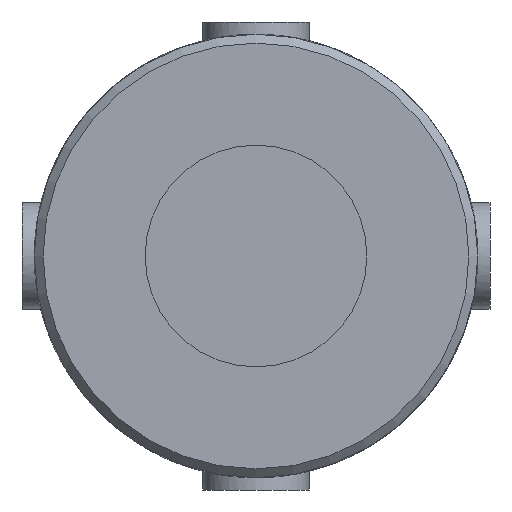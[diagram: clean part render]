
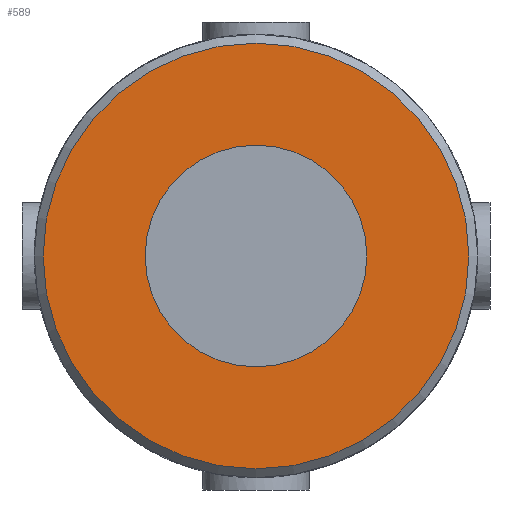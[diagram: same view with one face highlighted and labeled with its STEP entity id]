
A CAD part, left-side view. The second image highlights one B-rep face of the part: STEP entity #589.
In plain terms, the highlighted planar face has unit normal (-1, 0, 0) as drawn and (0, -1, 0) by its records, which use the part's own axes.
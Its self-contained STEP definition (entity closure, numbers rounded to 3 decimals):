
#121=PLANE('',#644);
#145=FACE_BOUND('',#221,.T.);
#168=FACE_OUTER_BOUND('',#220,.T.);
#220=EDGE_LOOP('',(#468));
#221=EDGE_LOOP('',(#469));
#257=CIRCLE('',#639,12.5);
#259=CIRCLE('',#642,24.);
#292=VERTEX_POINT('',#908);
#294=VERTEX_POINT('',#913);
#354=EDGE_CURVE('',#292,#292,#257,.T.);
#356=EDGE_CURVE('',#294,#294,#259,.T.);
#468=ORIENTED_EDGE('',*,*,#356,.F.);
#469=ORIENTED_EDGE('',*,*,#354,.T.);
#589=ADVANCED_FACE('',(#168,#145),#121,.F.);
#639=AXIS2_PLACEMENT_3D('',#909,#749,#750);
#642=AXIS2_PLACEMENT_3D('',#914,#755,#756);
#644=AXIS2_PLACEMENT_3D('',#1114,#763,#764);
#749=DIRECTION('center_axis',(0.,1.,0.));
#750=DIRECTION('ref_axis',(-1.,0.,0.));
#755=DIRECTION('center_axis',(0.,1.,0.));
#756=DIRECTION('ref_axis',(1.,0.,0.));
#763=DIRECTION('center_axis',(0.,1.,0.));
#764=DIRECTION('ref_axis',(0.,0.,1.));
#908=CARTESIAN_POINT('',(12.5,-66.5,0.));
#909=CARTESIAN_POINT('Origin',(0.,-66.5,0.));
#913=CARTESIAN_POINT('',(-24.,-66.5,0.));
#914=CARTESIAN_POINT('Origin',(0.,-66.5,0.));
#1114=CARTESIAN_POINT('Origin',(0.,-66.5,0.));
